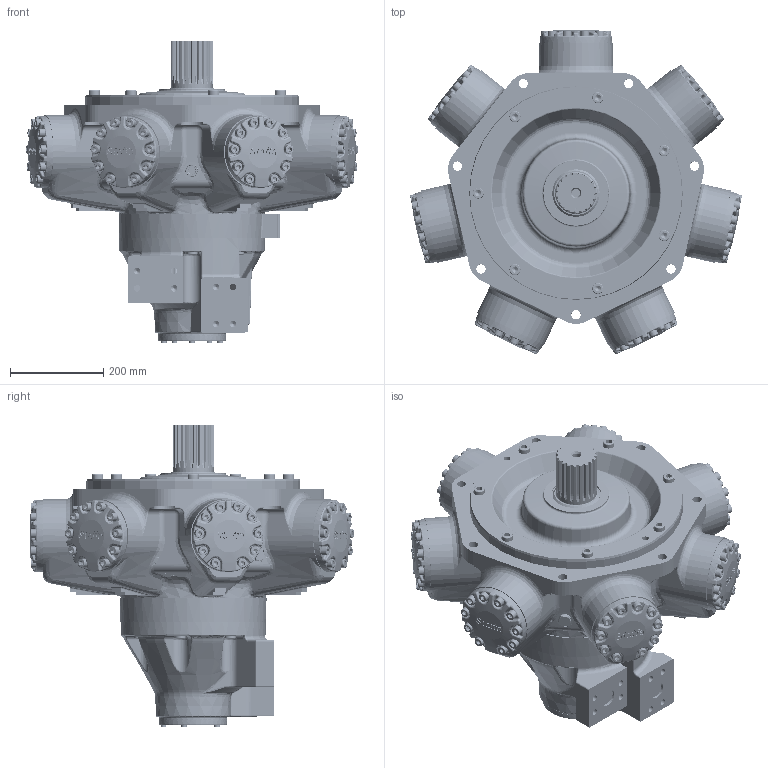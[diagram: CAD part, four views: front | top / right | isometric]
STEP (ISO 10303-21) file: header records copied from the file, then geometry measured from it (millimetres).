
FILE_DESCRIPTION(/* description */ (''),/* implementation_level */ '2;1');
FILE_NAME(/* name */ 'HMC270_S3_FM4_X.stp',/* time_stamp */ '2025-06-16T13:19:14+01:00',/* author */ ('ccallanga'),/* organization */ (''),/* preprocessor_version */ 'ST-DEVELOPER v20',/* originating_system */ 'Autodesk Inventor 2024',/* authorisation */ '');
FILE_SCHEMA (('AUTOMOTIVE_DESIGN { 1 0 10303 214 3 1 1 }'));
Products named in the file (1): 017752 HMC270 Web Assembly_Simplify_1
Bounding box: 711.04 x 695.71 x 648.78 mm (x, y, z)
Volume: 73344635.9 mm3; surface area: 1687728.8 mm2
Topology: 1 solids, 1 shells, 6858 faces, 16814 edges, 10026 vertices
Faces by surface type: bspline 2703, plane 1956, cylinder 1285, torus 565, sphere 178, cone 171
Full cylindrical faces by diameter (mm): 2.2 x4, 11.445 x2, 11.913 x5, 12.7 x5, 13.843 x8, 14.351 x2, 16.51 x1, 17.323 x1, 19.05 x70, 20 x7, 20.637 x70, 23.825 x14, 25.4 x14, 26.92 x2, 38.1 x5, 87.884 x1, 101.575 x1, 106.68 x1, 139.7 x1, 146 x1, 146.05 x1, 311 x1, 311.15 x1, 457.11 x1
Entity records: 299723 total; most frequent: CARTESIAN_POINT 152031, ORIENTED_EDGE 32994, DIRECTION 22849, EDGE_CURVE 16497, VERTEX_POINT 10026, AXIS2_PLACEMENT_3D 8573, EDGE_LOOP 7257, STYLED_ITEM 6859
